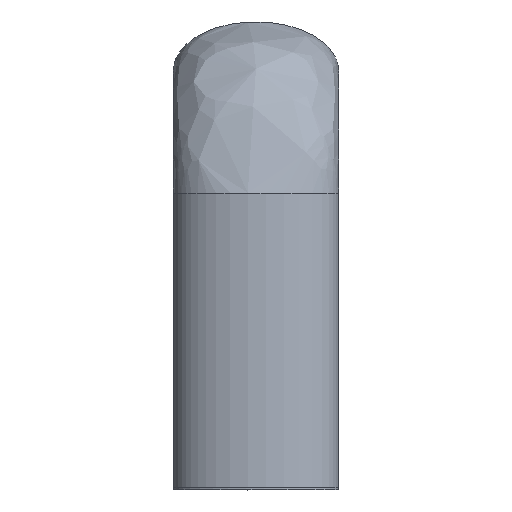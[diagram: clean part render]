
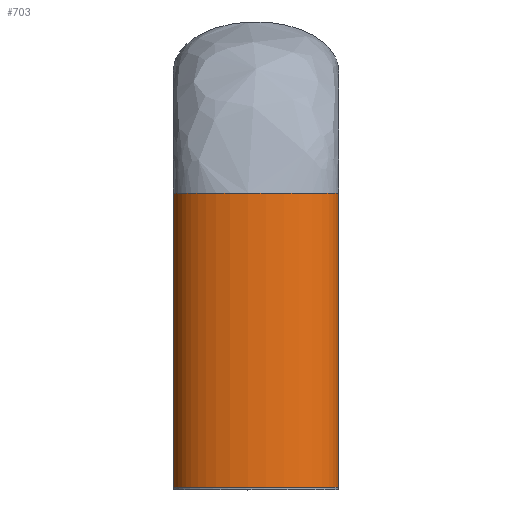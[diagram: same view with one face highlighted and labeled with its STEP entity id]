
A CAD part, top view. The second image highlights one B-rep face of the part: STEP entity #703.
In plain terms, the highlighted free-form (B-spline) face has degree [3, 1] with [7, 2] control points.
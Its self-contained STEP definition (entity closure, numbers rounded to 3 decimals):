
#4 =( BOUNDED_CURVE ( )  B_SPLINE_CURVE ( 3, ( #471, #642, #136, #586 ),
 .UNSPECIFIED., .F., .T. ) 
 B_SPLINE_CURVE_WITH_KNOTS ( ( 4, 4 ),
 ( 3.142, 6.283 ),
 .UNSPECIFIED. ) 
 CURVE ( )  GEOMETRIC_REPRESENTATION_ITEM ( )  RATIONAL_B_SPLINE_CURVE ( ( 1., 0.333, 0.333, 1. ) ) 
 REPRESENTATION_ITEM ( '' )  );
#23 = CARTESIAN_POINT ( 'NONE',  ( -6.737, 24., 8. ) ) ;
#40 = CARTESIAN_POINT ( 'NONE',  ( 6.737, 0., 0. ) ) ;
#56 = VERTEX_POINT ( 'NONE', #558 ) ;
#71 = CARTESIAN_POINT ( 'NONE',  ( 6.737, 0., 0. ) ) ;
#75 =( BOUNDED_SURFACE ( )  B_SPLINE_SURFACE ( 3, 1, ( 
 ( #95, #490 ),
 ( #643, #133 ),
 ( #312, #91 ),
 ( #210, #653 ),
 ( #200, #23 ),
 ( #537, #137 ),
 ( #40, #657 ) ),
 .UNSPECIFIED., .T., .F., .F. ) 
 B_SPLINE_SURFACE_WITH_KNOTS ( ( 4, 3, 4 ),
 ( 2, 2 ),
 ( 0., 0.5, 1. ),
 ( 0., 1. ),
 .UNSPECIFIED. ) 
 GEOMETRIC_REPRESENTATION_ITEM ( )  RATIONAL_B_SPLINE_SURFACE ( (
 ( 1., 1.),
 ( 0.333, 0.333),
 ( 0.333, 0.333),
 ( 1., 1.),
 ( 0.333, 0.333),
 ( 0.333, 0.333),
 ( 1., 1.) ) ) 
 REPRESENTATION_ITEM ( '' )  SURFACE ( )  );
#91 = CARTESIAN_POINT ( 'NONE',  ( -6.737, 24., -8. ) ) ;
#95 = CARTESIAN_POINT ( 'NONE',  ( 6.737, 0., 0. ) ) ;
#111 = EDGE_CURVE ( 'NONE', #438, #436, #240, .T. ) ;
#133 = CARTESIAN_POINT ( 'NONE',  ( 6.737, 24., -8. ) ) ;
#136 = CARTESIAN_POINT ( 'NONE',  ( 6.737, 0., 8. ) ) ;
#137 = CARTESIAN_POINT ( 'NONE',  ( 6.737, 24., 8. ) ) ;
#181 = EDGE_LOOP ( 'NONE', ( #704, #725, #426, #440 ) ) ;
#182 = EDGE_CURVE ( 'NONE', #438, #56, #4, .T. ) ;
#200 = CARTESIAN_POINT ( 'NONE',  ( -6.737, 0., 8. ) ) ;
#210 = CARTESIAN_POINT ( 'NONE',  ( -6.737, 0., 0. ) ) ;
#233 = CARTESIAN_POINT ( 'NONE',  ( 6.737, 24., 0. ) ) ;
#240 = B_SPLINE_CURVE_WITH_KNOTS ( 'NONE', 1,
 ( #266, #430 ),
 .UNSPECIFIED., .F., .F.,
 ( 2, 2 ),
 ( 0., 1. ),
 .UNSPECIFIED. ) ;
#255 = FACE_OUTER_BOUND ( 'NONE', #181, .T. ) ;
#266 = CARTESIAN_POINT ( 'NONE',  ( -6.737, 0., 0. ) ) ;
#308 = CARTESIAN_POINT ( 'NONE',  ( -6.737, 24., 8. ) ) ;
#312 = CARTESIAN_POINT ( 'NONE',  ( -6.737, 0., -8. ) ) ;
#316 = VERTEX_POINT ( 'NONE', #233 ) ;
#426 = ORIENTED_EDGE ( 'NONE', *, *, #549, .T. ) ;
#430 = CARTESIAN_POINT ( 'NONE',  ( -6.737, 24., 0. ) ) ;
#436 = VERTEX_POINT ( 'NONE', #534 ) ;
#438 = VERTEX_POINT ( 'NONE', #576 ) ;
#440 = ORIENTED_EDGE ( 'NONE', *, *, #443, .F. ) ;
#443 = EDGE_CURVE ( 'NONE', #436, #316, #559, .T. ) ;
#461 = CARTESIAN_POINT ( 'NONE',  ( -6.737, 24., 0. ) ) ;
#466 = CARTESIAN_POINT ( 'NONE',  ( 6.737, 24., 0. ) ) ;
#471 = CARTESIAN_POINT ( 'NONE',  ( -6.737, 0., 0. ) ) ;
#490 = CARTESIAN_POINT ( 'NONE',  ( 6.737, 24., 0. ) ) ;
#534 = CARTESIAN_POINT ( 'NONE',  ( -6.737, 24., 0. ) ) ;
#537 = CARTESIAN_POINT ( 'NONE',  ( 6.737, 0., 8. ) ) ;
#549 = EDGE_CURVE ( 'NONE', #56, #316, #557, .T. ) ;
#557 = B_SPLINE_CURVE_WITH_KNOTS ( 'NONE', 1,
 ( #71, #636 ),
 .UNSPECIFIED., .F., .F.,
 ( 2, 2 ),
 ( 0., 1. ),
 .UNSPECIFIED. ) ;
#558 = CARTESIAN_POINT ( 'NONE',  ( 6.737, 0., 0. ) ) ;
#559 =( BOUNDED_CURVE ( )  B_SPLINE_CURVE ( 3, ( #461, #308, #585, #466 ),
 .UNSPECIFIED., .F., .F. ) 
 B_SPLINE_CURVE_WITH_KNOTS ( ( 4, 4 ),
 ( 3.142, 6.283 ),
 .UNSPECIFIED. ) 
 CURVE ( )  GEOMETRIC_REPRESENTATION_ITEM ( )  RATIONAL_B_SPLINE_CURVE ( ( 1., 0.333, 0.333, 1. ) ) 
 REPRESENTATION_ITEM ( '' )  );
#576 = CARTESIAN_POINT ( 'NONE',  ( -6.737, 0., 0. ) ) ;
#585 = CARTESIAN_POINT ( 'NONE',  ( 6.737, 24., 8. ) ) ;
#586 = CARTESIAN_POINT ( 'NONE',  ( 6.737, 0., 0. ) ) ;
#636 = CARTESIAN_POINT ( 'NONE',  ( 6.737, 24., 0. ) ) ;
#642 = CARTESIAN_POINT ( 'NONE',  ( -6.737, 0., 8. ) ) ;
#643 = CARTESIAN_POINT ( 'NONE',  ( 6.737, 0., -8. ) ) ;
#653 = CARTESIAN_POINT ( 'NONE',  ( -6.737, 24., 0. ) ) ;
#657 = CARTESIAN_POINT ( 'NONE',  ( 6.737, 24., 0. ) ) ;
#703 = ADVANCED_FACE ( 'NONE', ( #255 ), #75, .T. ) ;
#704 = ORIENTED_EDGE ( 'NONE', *, *, #111, .F. ) ;
#725 = ORIENTED_EDGE ( 'NONE', *, *, #182, .T. ) ;
